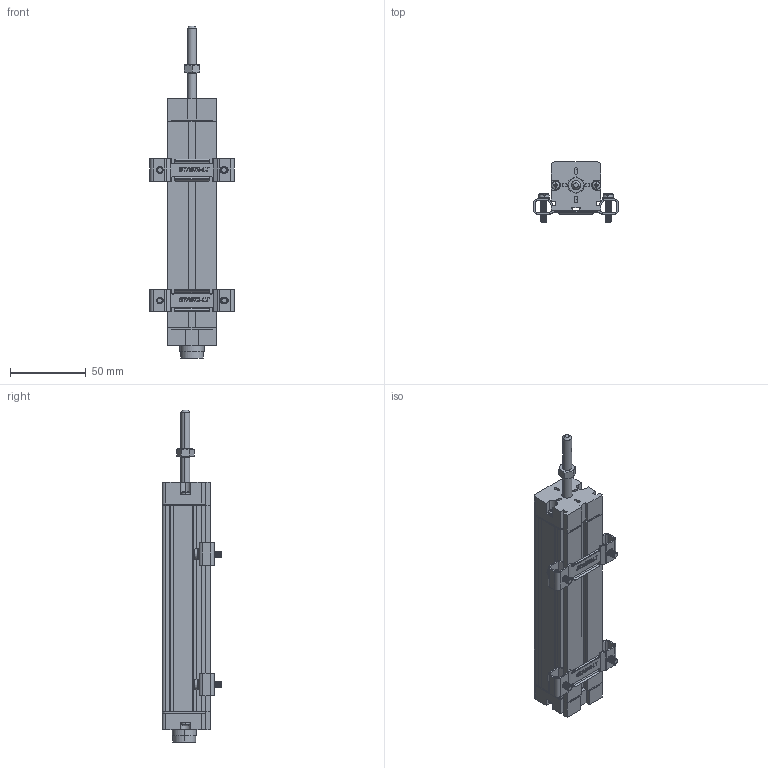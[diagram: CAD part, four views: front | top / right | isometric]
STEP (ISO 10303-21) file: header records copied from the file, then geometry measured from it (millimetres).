
FILE_DESCRIPTION (( 'STEP AP203' ), '1' );
FILE_NAME ('LT-B-0100-S.STEP', '2016-05-31T14:21:00', ( '' ), ( '' ), 'SwSTEP 2.0', 'SolidWorks 2015', '' );
FILE_SCHEMA (( 'CONFIG_CONTROL_DESIGN' ));
Length unit declared in the file: millimetre
Products named in the file (12): MIM862X_MIM862; TES034x; CON010X; Guarnizione; LT-B-0100-S; TES040X; Albero; MIM203X_MIM203; STA072X; MIM895X_ISO 1207 - M4 x 16 --- 16S; MIM510X_DIN 6905-3.6-FSt; Custodia
Assembly tree (22 placements, depth 2):
  LT-B-0100-S
    Custodia
    TES034x
    Guarnizione  x2
    TES040X
    Albero
    MIM203X_MIM203
    STA072X  x2
    MIM895X_ISO 1207 - M4 x 16 --- 16S  x4
    MIM510X_DIN 6905-3.6-FSt  x4
    MIM862X_MIM862  x4
    CON010X
Bounding box: 56 x 39.7 x 219.71 mm (x, y, z)
Volume: 168049.1 mm3; surface area: 52593.2 mm2
Topology: 21 solids, 27 shells, 2139 faces, 5504 edges, 3426 vertices
Faces by surface type: cone 802, plane 595, cylinder 570, bspline 120, torus 44, sphere 8
Entity records: 30397 total; most frequent: CARTESIAN_POINT 7556, DIRECTION 4543, ORIENTED_EDGE 4414, EDGE_CURVE 2212, AXIS2_PLACEMENT_3D 1669, VERTEX_POINT 1388, VECTOR 1205, LINE 1205
